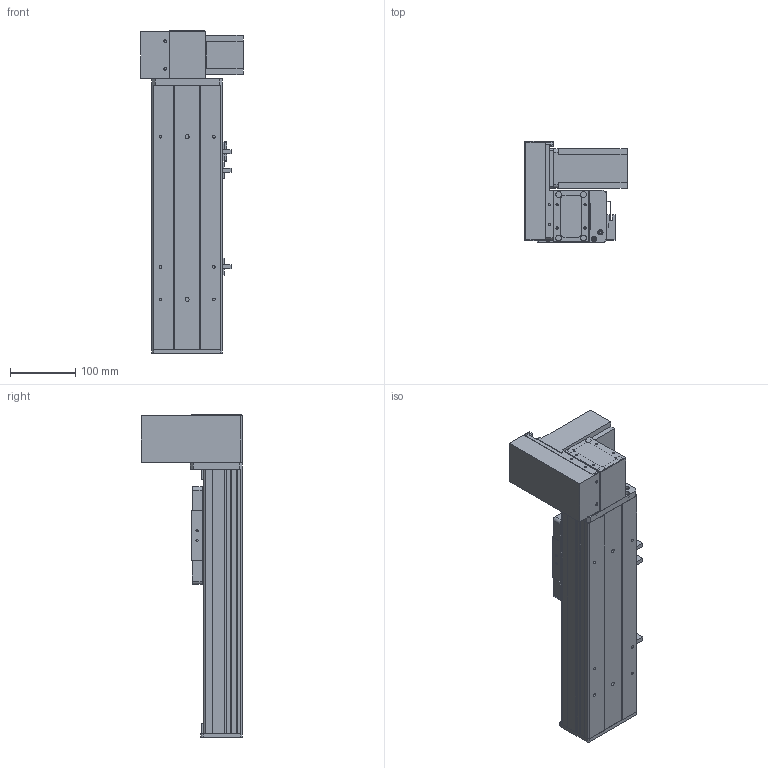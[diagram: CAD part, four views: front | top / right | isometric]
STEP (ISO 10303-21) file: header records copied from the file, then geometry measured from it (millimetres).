
FILE_DESCRIPTION (( 'STEP AP203' ), '1' );
FILE_NAME ('Y10CB-D90-S150-UL-P400W.STEP', '2020-02-16T04:25:49', ( '微软用户' ), ( '微软中国' ), 'SwSTEP 2.0', 'SolidWorks 2017', '' );
FILE_SCHEMA (( 'CONFIG_CONTROL_DESIGN' ));
Length unit declared in the file: millimetre
Products named in the file (18): 0B-埴倛裔啣; 10CB-詩湍-; Y10CB- 掛极耜裔啣-毀---; Y10C---詩湍揤啣; 10CB9-掛极; 10CB-耜裔; Y135C-陔俋离換覜結え-; Y10B-耜蚾蟀諉啣----; 00B-俋欶BM--; Y10B--々湍喘謫眊--666; Y10CB-D90-S150-UL-P400W; Y100-135俋离換覜ん--; 0CB-雄赽釱---; 0Cb-俋欶---; Y10B-々湍喘謫眊楊擘啣--; 0B-萇儂楊擘啣; san松下电机400不带刹车----; 0B-源倛裔啣
Assembly tree (21 placements, depth 2):
  Y10CB-D90-S150-UL-P400W
    0CB-雄赽釱---
    0Cb-俋欶---
    Y10B-々湍喘謫眊楊擘啣--
    0B-萇儂楊擘啣
    san松下电机400不带刹车----
    0B-源倛裔啣
    0B-埴倛裔啣
    10CB-詩湍-
    Y10CB- 掛极耜裔啣-毀---  x2
    Y10C---詩湍揤啣  x2
    10CB9-掛极
    10CB-耜裔
    Y135C-陔俋离換覜結え-
    Y100-135俋离換覜ん--  x3
    Y10B-耜蚾蟀諉啣----
    00B-俋欶BM--
    Y10B--々湍喘謫眊--666
Bounding box: 157 x 155.5 x 496 mm (x, y, z)
Volume: 1652544.3 mm3; surface area: 663311.2 mm2
Topology: 21 solids, 21 shells, 942 faces, 2483 edges, 1634 vertices
Faces by surface type: plane 469, cylinder 449, cone 24
Entity records: 28912 total; most frequent: CARTESIAN_POINT 4877, DIRECTION 4726, ORIENTED_EDGE 4436, EDGE_CURVE 2218, AXIS2_PLACEMENT_3D 1693, VERTEX_POINT 1460, VECTOR 1340, LINE 1340
